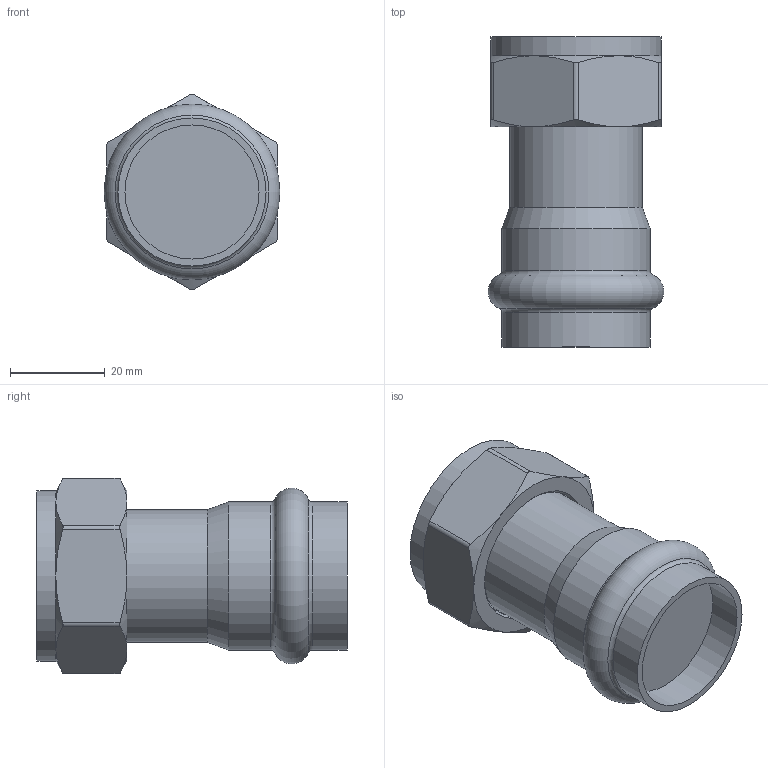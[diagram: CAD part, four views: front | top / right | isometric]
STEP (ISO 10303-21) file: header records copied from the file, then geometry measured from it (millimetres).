
FILE_DESCRIPTION(('STEP AP203'), '1');
FILE_NAME('VTi.908.I.002806', '', ('UNSPECIFIED'), ('UNSPECIFIED'), 'C3D Converter', 'C3D Toolkit', '');
FILE_SCHEMA(('CONFIG_CONTROL_DESIGN'));
Length unit declared in the file: millimetre
Bounding box: 37.09 x 65.5 x 41.26 mm (x, y, z)
Volume: 42184.8 mm3; surface area: 11420.7 mm2
Topology: 1 solids, 1 shells, 43 faces, 91 edges, 54 vertices
Faces by surface type: cone 15, cylinder 13, plane 12, torus 3
Full cylindrical faces by diameter (mm): 28 x1, 28.3 x1, 28.5 x1, 30.292 x1, 31.26 x2, 36 x1
Entity records: 2004 total; most frequent: CARTESIAN_POINT 1142, DIRECTION 160, ORIENTED_EDGE 156, EDGE_CURVE 78, AXIS2_PLACEMENT_3D 74, EDGE_LOOP 60, VERTEX_POINT 54, ADVANCED_FACE 43
